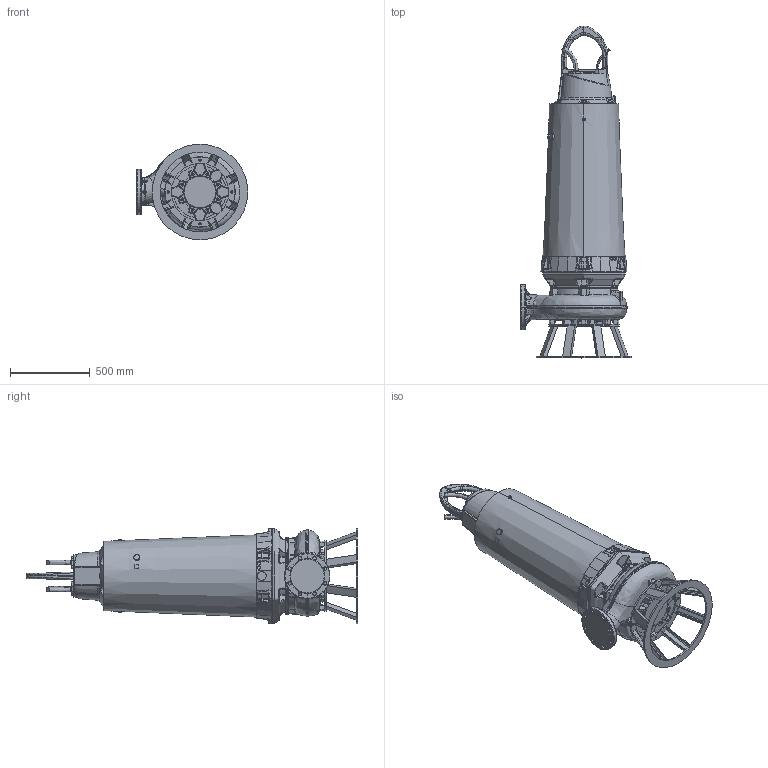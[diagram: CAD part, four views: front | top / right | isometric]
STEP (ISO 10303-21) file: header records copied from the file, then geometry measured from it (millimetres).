
FILE_DESCRIPTION (( 'STEP AP214' ), '1' );
FILE_NAME ('PE5_XFP150J-CH2_WET T_B_NG2.STEP', '2017-03-16T06:36:42', ( '' ), ( '' ), 'SwSTEP 2.0', 'SolidWorks 2017', '' );
FILE_SCHEMA (( 'AUTOMOTIVE_DESIGN' ));
Length unit declared in the file: millimetre
Products named in the file (1): PE5_XFP150J-CH2_WET T_B_NG2
Bounding box: 699.71 x 2082.47 x 599.43 mm (x, y, z)
Volume: 274343340.6 mm3; surface area: 3830164 mm2
Topology: 3 solids, 5 shells, 2524 faces, 6233 edges, 3651 vertices
Faces by surface type: bspline 863, cylinder 520, plane 503, torus 296, cone 272, sphere 70
Entity records: 189928 total; most frequent: CARTESIAN_POINT 110044, ORIENTED_EDGE 12228, DIRECTION 9240, EDGE_CURVE 6114, AXIS2_PLACEMENT_3D 3807, VERTEX_POINT 3651, EDGE_LOOP 2623, UNCERTAINTY_MEASURE_WITH_UNIT 2529
